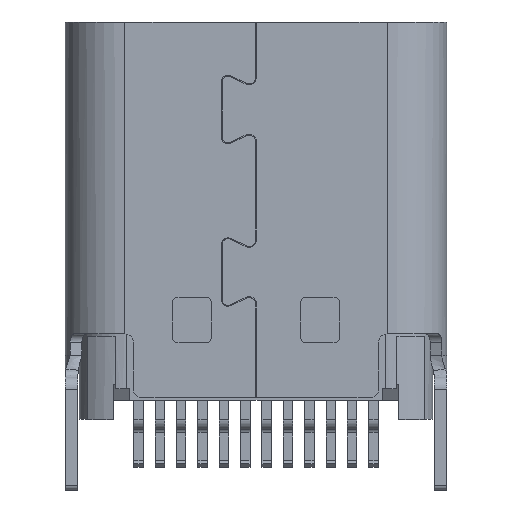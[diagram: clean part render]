
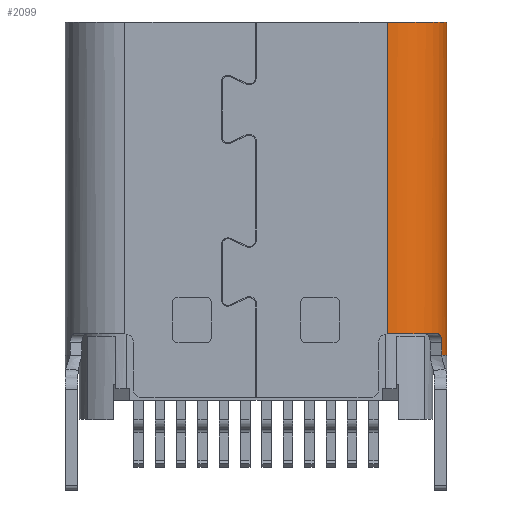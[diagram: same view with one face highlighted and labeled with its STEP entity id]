
A CAD part, top view. The second image highlights one B-rep face of the part: STEP entity #2099.
In plain terms, the highlighted cylindrical face has radius 1.4 mm (diameter 2.8 mm), a partial arc.
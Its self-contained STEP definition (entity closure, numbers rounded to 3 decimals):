
#97 = LINE ( 'NONE', #16120, #31075 ) ;
#476 = ORIENTED_EDGE ( 'NONE', *, *, #12098, .F. ) ;
#759 = CYLINDRICAL_SURFACE ( 'NONE', #2543, 1.4 ) ;
#2098 = CARTESIAN_POINT ( 'NONE',  ( -6.139, 27.418, -5.79 ) ) ;
#2099 = ADVANCED_FACE ( 'NONE', ( #24655 ), #759, .T. ) ;
#2269 = CARTESIAN_POINT ( 'NONE',  ( -6.097, 27.293, -5.876 ) ) ;
#2543 = AXIS2_PLACEMENT_3D ( 'NONE', #8770, #19416, #30064 ) ;
#3437 = DIRECTION ( 'NONE',  ( 0., 1., 0. ) ) ;
#3567 = DIRECTION ( 'NONE',  ( 1., 0., 0. ) ) ;
#3762 = CIRCLE ( 'NONE', #15444, 1.4 ) ;
#4717 = CARTESIAN_POINT ( 'NONE',  ( -6.097, 27.239, -5.877 ) ) ;
#5051 = CARTESIAN_POINT ( 'NONE',  ( -6.106, 27.344, -5.857 ) ) ;
#5497 = CARTESIAN_POINT ( 'NONE',  ( -7.376, 27.439, -6.447 ) ) ;
#6073 = EDGE_CURVE ( 'NONE', #12748, #11288, #32862, .T. ) ;
#6118 = CARTESIAN_POINT ( 'NONE',  ( -5.976, 34.739, -6.447 ) ) ;
#6272 = CARTESIAN_POINT ( 'NONE',  ( -7.376, 25.939, -5.047 ) ) ;
#6991 = CARTESIAN_POINT ( 'NONE',  ( -6.097, 27.239, -5.877 ) ) ;
#8770 = CARTESIAN_POINT ( 'NONE',  ( -7.376, 25.939, -6.447 ) ) ;
#8858 = ORIENTED_EDGE ( 'NONE', *, *, #12128, .T. ) ;
#9163 = CARTESIAN_POINT ( 'NONE',  ( -7.376, 34.739, -6.447 ) ) ;
#9342 = DIRECTION ( 'NONE',  ( 1., 0., 0. ) ) ;
#9900 = CIRCLE ( 'NONE', #16010, 1.4 ) ;
#10113 = CARTESIAN_POINT ( 'NONE',  ( -6.192, 27.439, -5.7 ) ) ;
#10667 = EDGE_LOOP ( 'NONE', ( #476, #30297, #8858, #26111, #31507, #12356, #31836 ) ) ;
#10772 = DIRECTION ( 'NONE',  ( 1., 0., 0. ) ) ;
#10831 = VERTEX_POINT ( 'NONE', #31024 ) ;
#11288 = VERTEX_POINT ( 'NONE', #6118 ) ;
#12098 = EDGE_CURVE ( 'NONE', #20516, #24272, #9900, .T. ) ;
#12128 = EDGE_CURVE ( 'NONE', #22593, #15900, #97, .T. ) ;
#12356 = ORIENTED_EDGE ( 'NONE', *, *, #6073, .F. ) ;
#12748 = VERTEX_POINT ( 'NONE', #33536 ) ;
#13531 = DIRECTION ( 'NONE',  ( 0., 1., 0. ) ) ;
#15444 = AXIS2_PLACEMENT_3D ( 'NONE', #29273, #16174, #10772 ) ;
#15900 = VERTEX_POINT ( 'NONE', #25878 ) ;
#15951 = EDGE_CURVE ( 'NONE', #24272, #12748, #16900, .T. ) ;
#16010 = AXIS2_PLACEMENT_3D ( 'NONE', #5497, #30093, #3567 ) ;
#16120 = CARTESIAN_POINT ( 'NONE',  ( -6.097, 27.439, -5.877 ) ) ;
#16134 = CARTESIAN_POINT ( 'NONE',  ( -5.976, 25.939, -6.447 ) ) ;
#16174 = DIRECTION ( 'NONE',  ( 0., -1., 0. ) ) ;
#16900 = LINE ( 'NONE', #6272, #21173 ) ;
#17821 = AXIS2_PLACEMENT_3D ( 'NONE', #9163, #3437, #9342 ) ;
#19416 = DIRECTION ( 'NONE',  ( 0., 1., 0. ) ) ;
#19984 = EDGE_CURVE ( 'NONE', #10831, #11288, #21384, .T. ) ;
#20516 = VERTEX_POINT ( 'NONE', #32513 ) ;
#20761 = CARTESIAN_POINT ( 'NONE',  ( -6.164, 27.439, -5.744 ) ) ;
#21173 = VECTOR ( 'NONE', #32785, 1000. ) ;
#21384 = LINE ( 'NONE', #16134, #28133 ) ;
#21719 = DIRECTION ( 'NONE',  ( 0., -1., 0. ) ) ;
#22593 = VERTEX_POINT ( 'NONE', #6991 ) ;
#24272 = VERTEX_POINT ( 'NONE', #29455 ) ;
#24300 = EDGE_CURVE ( 'NONE', #10831, #15900, #3762, .T. ) ;
#24655 = FACE_OUTER_BOUND ( 'NONE', #10667, .T. ) ;
#25774 = EDGE_CURVE ( 'NONE', #20516, #22593, #32525, .T. ) ;
#25878 = CARTESIAN_POINT ( 'NONE',  ( -6.097, 26.939, -5.877 ) ) ;
#26111 = ORIENTED_EDGE ( 'NONE', *, *, #24300, .F. ) ;
#28133 = VECTOR ( 'NONE', #13531, 1000. ) ;
#29273 = CARTESIAN_POINT ( 'NONE',  ( -7.376, 26.939, -6.447 ) ) ;
#29455 = CARTESIAN_POINT ( 'NONE',  ( -7.376, 27.439, -5.047 ) ) ;
#30064 = DIRECTION ( 'NONE',  ( 1., 0., 0. ) ) ;
#30093 = DIRECTION ( 'NONE',  ( 0., -1., 0. ) ) ;
#30297 = ORIENTED_EDGE ( 'NONE', *, *, #25774, .T. ) ;
#31024 = CARTESIAN_POINT ( 'NONE',  ( -5.976, 26.939, -6.447 ) ) ;
#31075 = VECTOR ( 'NONE', #21719, 1000. ) ;
#31507 = ORIENTED_EDGE ( 'NONE', *, *, #19984, .T. ) ;
#31836 = ORIENTED_EDGE ( 'NONE', *, *, #15951, .F. ) ;
#32513 = CARTESIAN_POINT ( 'NONE',  ( -6.192, 27.439, -5.7 ) ) ;
#32525 = B_SPLINE_CURVE_WITH_KNOTS ( 'NONE', 3,
 ( #10113, #20761, #2098, #5051, #2269, #4717 ),
 .UNSPECIFIED., .F., .F.,
 ( 4, 2, 4 ),
 ( 0., 0.5, 1. ),
 .UNSPECIFIED. ) ;
#32785 = DIRECTION ( 'NONE',  ( 0., 1., 0. ) ) ;
#32862 = CIRCLE ( 'NONE', #17821, 1.4 ) ;
#33536 = CARTESIAN_POINT ( 'NONE',  ( -7.376, 34.739, -5.047 ) ) ;
